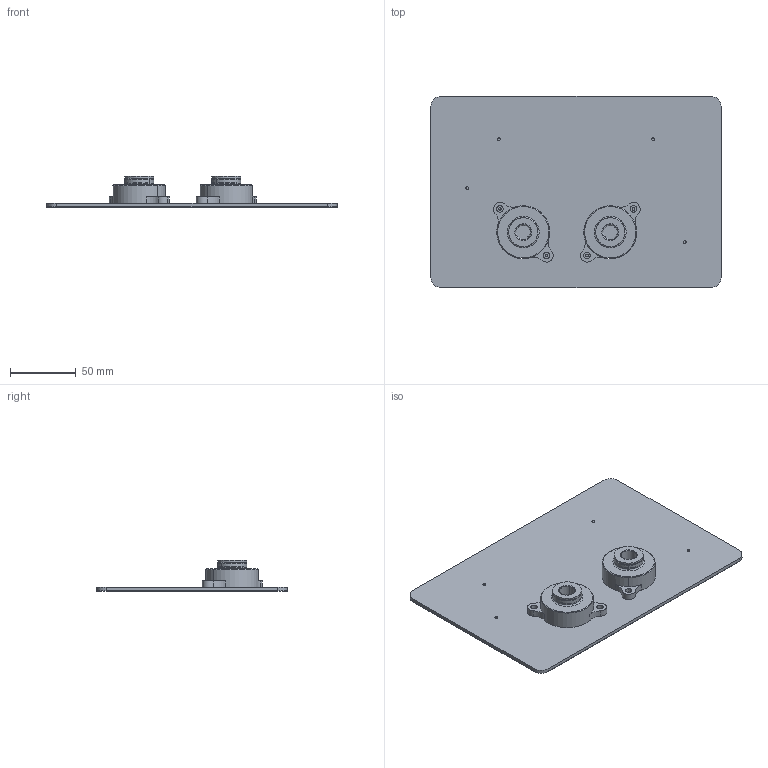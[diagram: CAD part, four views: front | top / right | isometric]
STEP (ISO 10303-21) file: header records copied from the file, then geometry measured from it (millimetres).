
FILE_DESCRIPTION (( 'STEP AP203' ), '1' );
FILE_NAME ('LRD3.STEP', '2024-10-30T13:17:27', ( '' ), ( '' ), 'SwSTEP 2.0', 'SolidWorks 2024', '' );
FILE_SCHEMA (( 'CONFIG_CONTROL_DESIGN' ));
Length unit declared in the file: millimetre
Products named in the file (10): AS1015_00; C47.00.0075.00; C25.2513.00.0; LRD3; AS1011_00; C25.2510.00.0; AS1014_00; C12.00.0005; C21.2512.00.0; C25.2507.00.0
Assembly tree (10 placements, depth 4):
  LRD3
    AS1011_00
      AS1014_00
        C25.2510.00.0
      AS1015_00  x2
        C21.2512.00.0
        C25.2507.00.0
        C47.00.0075.00
        C25.2513.00.0
        C12.00.0005
Bounding box: 220 x 145 x 23.8 mm (x, y, z)
Volume: 115743.8 mm3; surface area: 89992.9 mm2
Topology: 11 solids, 11 shells, 272 faces, 588 edges, 360 vertices
Faces by surface type: cylinder 102, plane 66, torus 60, cone 40, bspline 4
Entity records: 6211 total; most frequent: CARTESIAN_POINT 1344, DIRECTION 915, ORIENTED_EDGE 712, AXIS2_PLACEMENT_3D 395, EDGE_CURVE 356, VERTEX_POINT 220, CIRCLE 217, EDGE_LOOP 194
